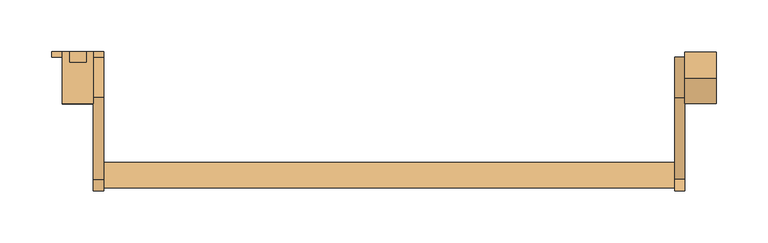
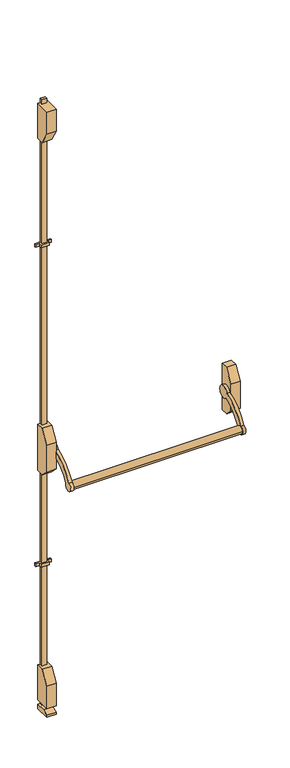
"""IFC4 building model written with IfcOpenShell, lengths in millimetres: door geometry, BarreAP : BarreAP."""

from ifc_helpers import new_model, si_unit, point, frame, frame_2d, origin, place, context, project, spatial, polyline, circle_curve, trimmed, segment, composite_curve, outline, extrude, faceted_brep, source, transform, mapped, element, save


def door_fae4e679(model_context):
    return source(origin(), model_context, "Body", "SolidModel", [
        extrude(outline(composite_curve([segment(trimmed(circle_curve(frame_2d((-118.8869712, 826.0898817)), 12.5), [point((-131.3869712, 826.0898817))], [point((-106.3869712, 826.0898817))], False, "CARTESIAN"), True, "CONTINUOUS"), segment(trimmed(circle_curve(frame_2d((-118.8869712, 826.0898817)), 12.5), [point((-106.3869712, 826.0898817))], [point((-131.3869712, 826.0898817))], False, "CARTESIAN"), True, "CONTINUOUS")], self_intersect=False)), frame((25.0, 0.0, 0.0), z_axis=(1.0, 0.0, 0.0), x_axis=(0.0, 1.0, 0.0)), (0.0, 0.0, 1.0), 550.0),
        extrude(outline(composite_curve([segment(trimmed(circle_curve(frame_2d((-25.0, 900.0)), 20.0), [point((-43.940256, 906.4239163))], [point((-39.9080609, 886.6677189))], False, "CARTESIAN"), True, "CONTINUOUS"), segment(trimmed(circle_curve(frame_2d((0.0, 773.4981705)), 120.0), [point((-39.9080609, 886.6677189))], [point((-104.960922, 831.663494))], True, "CARTESIAN"), True, "CONTINUOUS"), segment(trimmed(circle_curve(frame_2d((-118.8869712, 826.0898817)), 15.0), [point((-104.960922, 831.663494))], [point((-122.9027189, 840.5423476))], False, "CARTESIAN"), True, "CONTINUOUS"), segment(trimmed(circle_curve(frame_2d((0.0, 773.4981705)), 140.0), [point((-122.9027189, 840.5423476))], [point((-43.940256, 906.4239163))], False, "CARTESIAN"), True, "CONTINUOUS")], self_intersect=False)), frame((575.0, 0.0, 0.0), z_axis=(1.0, 0.0, 0.0), x_axis=(0.0, 1.0, 0.0)), (0.0, 0.0, 1.0), 10.0),
        extrude(outline(composite_curve([segment(trimmed(circle_curve(frame_2d((-25.0, 900.0)), 20.0), [point((-43.940256, 906.4239163))], [point((-39.9080609, 886.6677189))], False, "CARTESIAN"), True, "CONTINUOUS"), segment(trimmed(circle_curve(frame_2d((0.0, 773.4981705)), 120.0), [point((-39.9080609, 886.6677189))], [point((-104.960922, 831.663494))], True, "CARTESIAN"), True, "CONTINUOUS"), segment(trimmed(circle_curve(frame_2d((-118.8869712, 826.0898817)), 15.0), [point((-104.960922, 831.663494))], [point((-122.9027189, 840.5423476))], False, "CARTESIAN"), True, "CONTINUOUS"), segment(trimmed(circle_curve(frame_2d((0.0, 773.4981705)), 140.0), [point((-122.9027189, 840.5423476))], [point((-43.940256, 906.4239163))], False, "CARTESIAN"), True, "CONTINUOUS")], self_intersect=False)), frame((15.0, 0.0, 0.0), z_axis=(1.0, 0.0, 0.0), x_axis=(0.0, 1.0, 0.0)), (0.0, 0.0, 1.0), 10.0),
        extrude(outline(polyline([(-50.0, 936.6987298), (-25.0, 980.0), (0.0, 980.0), (0.0, 820.0), (-25.0, 820.0), (-50.0, 845.0), (-50.0, 936.6987298)])), frame((585.0, 0.0, 0.0), z_axis=(1.0, 0.0, 0.0), x_axis=(0.0, 1.0, 0.0)), (0.0, 0.0, 1.0), 30.0),
        extrude(outline(polyline([(-13.0, -5.0), (-25.0, -5.0), (-25.0, 0.0), (-8.0, 0.0), (-8.0, -10.0), (8.0, -10.0), (8.0, 0.0), (25.0, 0.0), (25.0, -5.0), (13.0, -5.0), (13.0, -15.0), (-13.0, -15.0), (-13.0, -5.0)])), frame((0.0, 0.0, 1595.0), z_axis=(0.0, 0.0, 1.0), x_axis=(1.0, 0.0, 0.0)), (0.0, 0.0, 1.0), 10.0),
        faceted_brep([(15.0, -50.0, 2008.3012702), (15.0, -25.0, 1965.0), (15.0, 0.0, 1965.0), (15.0, 0.0, 2085.0), (15.0, -50.0, 2085.0), (15.0, -50.0, 106.6987298), (15.0, -50.0, 30.0), (15.0, 0.0, 30.0), (15.0, 0.0, 150.0), (15.0, -25.0, 150.0), (-15.0, -50.0, 2008.3012702), (-15.0, -50.0, 2085.0), (-15.0, 0.0, 2085.0), (-15.0, 0.0, 1965.0), (-15.0, -25.0, 1965.0), (-15.0, -50.0, 106.6987298), (-15.0, -25.0, 150.0), (-15.0, 0.0, 150.0), (-15.0, 0.0, 30.0), (-15.0, -50.0, 30.0), (-8.0, 0.0, 1965.0), (-8.0, -10.0, 1965.0), (8.0, -10.0, 1965.0), (8.0, 0.0, 1965.0), (8.0, 0.0, 980.0), (15.0, 0.0, 980.0), (15.0, 0.0, 820.0), (8.0, 0.0, 820.0), (8.0, 0.0, 150.0), (8.0, 0.0, 30.0), (8.0, 0.0, 15.0), (-8.0, 0.0, 15.0), (-8.0, 0.0, 30.0), (-8.0, 0.0, 150.0), (-8.0, 0.0, 820.0), (-15.0, 0.0, 820.0), (-15.0, 0.0, 980.0), (-8.0, 0.0, 980.0), (-8.0, 0.0, 2085.0), (-8.0, 0.0, 2100.0), (8.0, 0.0, 2100.0), (8.0, 0.0, 2085.0), (8.0, -10.0, 2085.0), (-8.0, -10.0, 2085.0), (-8.0, -10.0, 30.0), (8.0, -10.0, 30.0), (8.0, -10.0, 150.0), (-8.0, -10.0, 150.0), (-8.0, -10.0, 2100.0), (8.0, -10.0, 2100.0), (8.0, -10.0, 15.0), (-8.0, -10.0, 15.0), (-8.0, -10.0, 980.0), (-8.0, -10.0, 820.0), (8.0, -10.0, 980.0), (8.0, -10.0, 820.0), (15.0, -25.0, 980.0), (15.0, -50.0, 936.6987298), (15.0, -50.0, 845.0), (15.0, -25.0, 820.0), (-15.0, -25.0, 980.0), (-15.0, -25.0, 820.0), (-15.0, -50.0, 845.0), (-15.0, -50.0, 936.6987298)], [[[0, 1, 2, 3, 4]], [[5, 6, 7, 8, 9]], [[10, 11, 12, 13, 14]], [[15, 16, 17, 18, 19]], [[1, 0, 10, 14]], [[2, 1, 14, 13, 20, 21, 22, 23]], [[3, 2, 23, 24, 25, 26, 27, 28, 8, 7, 29, 30, 31, 32, 18, 17, 33, 34, 35, 36, 37, 20, 13, 12, 38, 39, 40, 41]], [[4, 3, 41, 42, 43, 38, 12, 11]], [[0, 4, 11, 10]], [[6, 5, 15, 19]], [[7, 6, 19, 18, 32, 44, 45, 29]], [[9, 8, 28, 46, 47, 33, 17, 16]], [[5, 9, 16, 15]], [[40, 39, 48, 49]], [[30, 50, 51, 31]], [[21, 20, 37, 52]], [[33, 47, 53, 34]], [[48, 39, 38, 43]], [[31, 51, 44, 32]], [[22, 21, 52, 54]], [[47, 46, 55, 53]], [[49, 48, 43, 42]], [[51, 50, 45, 44]], [[23, 22, 54, 24]], [[46, 28, 27, 55]], [[40, 49, 42, 41]], [[50, 30, 29, 45]], [[56, 57, 58, 59, 26, 25]], [[60, 36, 35, 61, 62, 63]], [[57, 56, 60, 63]], [[58, 57, 63, 62]], [[59, 58, 62, 61]], [[26, 59, 61, 35, 34, 53, 55, 27]], [[56, 25, 24, 54, 52, 37, 36, 60]]]),
        extrude(outline(polyline([(-8.0, -10.0), (8.0, -10.0), (8.0, 0.0), (25.0, 0.0), (25.0, -5.0), (13.0, -5.0), (13.0, -15.0), (-13.0, -15.0), (-13.0, -5.0), (-25.0, -5.0), (-25.0, 0.0), (-8.0, 0.0), (-8.0, -10.0)])), frame((0.0, 0.0, 495.0), z_axis=(0.0, 0.0, 1.0), x_axis=(1.0, 0.0, 0.0)), (0.0, 0.0, 1.0), 10.0),
        extrude(outline(polyline([(-32.2782624, 15.0), (0.0, 15.0), (0.0, 0.0), (-50.0, 0.0), (-50.0, 6.7362181), (-32.2782624, 15.0)])), frame((-15.0, 0.0, 0.0), z_axis=(1.0, 0.0, 0.0), x_axis=(0.0, 1.0, 0.0)), (0.0, 0.0, 1.0), 30.0),
    ])


if __name__ == "__main__":
    model = new_model("IFC4")
    model_context = context("Model", 3, world=origin())
    ifc_project = project(units=[si_unit("LENGTHUNIT", "METRE", prefix="MILLI")], contexts=[model_context])
    site = spatial("IfcSite", under=ifc_project)
    building = spatial("IfcBuilding", under=site)
    placement = place(None, origin())
    door_shape = door_fae4e679(model_context)
    element("IfcDoor", 1, ObjectType="BarreAP : BarreAP", at=placement, inside=building, context=model_context, shape_type="MappedRepresentation", body=[
        mapped(door_shape, transform((0.0, 0.0, 0.0), x_axis=(1.0, 0.0, 0.0), y_axis=(0.0, 1.0, 0.0), z_axis=(0.0, 0.0, 1.0))),
    ])
    save(model, "model.ifc")
